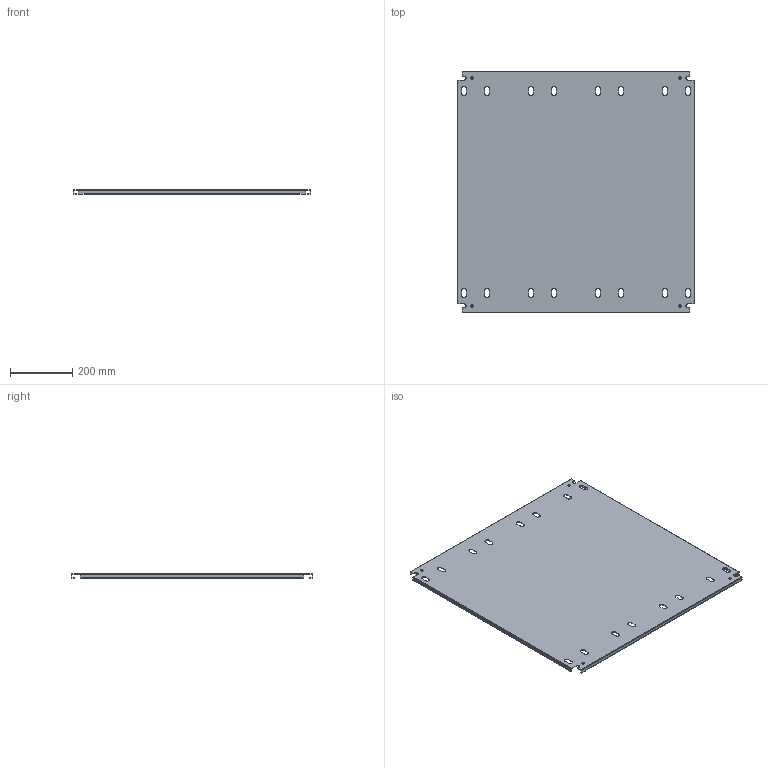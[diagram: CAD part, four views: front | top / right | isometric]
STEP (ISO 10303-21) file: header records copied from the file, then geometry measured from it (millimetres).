
FILE_DESCRIPTION(/* description */ ('1412BTSSCU 29.975" x 28" Right Inner Panel'),/* implementation_level */ '2;1');
FILE_NAME(/* name */ 'C:\Vault_Workspace\Inventor_Dwg\BoxCad\Result\1412BTSSCU072004\e-mail\3D\1412BTSSCU072004IP2.stp',/* time_stamp */ '2022-09-20T18:45:55-04:00',/* author */ ('BoxCad'),/* organization */ (''),/* preprocessor_version */ 'ST-DEVELOPER v18.1',/* originating_system */ 'Autodesk Inventor 2020',/* authorisation */ '');
FILE_SCHEMA (('AUTOMOTIVE_DESIGN { 1 0 10303 214 3 1 1 }'));
Length unit declared in the file: inch
Products named in the file (2): 1412BTSSCU072004IP2; 1412BTSSCU072004IP2-P
Assembly tree (1 placements, depth 2):
  1412BTSSCU072004IP2
    1412BTSSCU072004IP2-P
Bounding box: 761.37 x 774.7 x 13 mm (x, y, z)
Volume: 1095825.4 mm3; surface area: 1276885.5 mm2
Topology: 1 solids, 1 shells, 174 faces, 516 edges, 344 vertices
Faces by surface type: plane 98, cylinder 76
Full cylindrical faces by diameter (mm): 7.366 x4
Entity records: 6001 total; most frequent: CARTESIAN_POINT 1037, ORIENTED_EDGE 1032, DIRECTION 1022, EDGE_CURVE 516, LINE 364, VECTOR 364, VERTEX_POINT 344, AXIS2_PLACEMENT_3D 329
